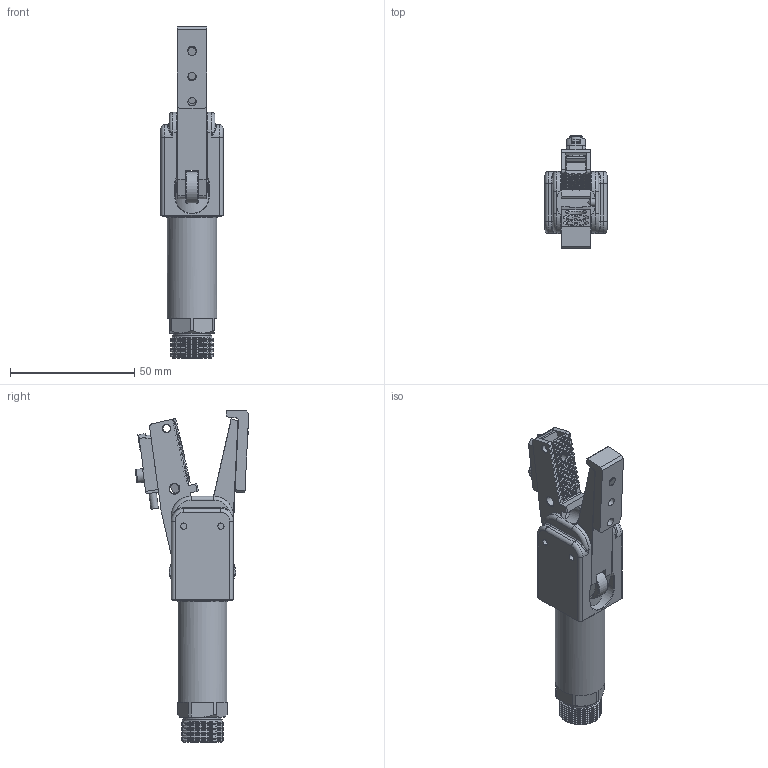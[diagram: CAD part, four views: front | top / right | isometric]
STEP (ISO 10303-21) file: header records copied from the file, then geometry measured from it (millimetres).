
FILE_DESCRIPTION(/* description */ (''),/* implementation_level */ '2;1');
FILE_NAME(/* name */ 'GRT20E-CN.stp',/* time_stamp */ '2023-03-09T11:26:20+08:00',/* author */ (''),/* organization */ (''),/* preprocessor_version */ 'ST-DEVELOPER v16',/* originating_system */ 'SIEMENS PLM Software NX 10.0',/* authorisation */ '');
FILE_SCHEMA (('AUTOMOTIVE_DESIGN { 1 0 10303 214 3 1 1 1 }'));
Length unit declared in the file: millimetre
Products named in the file (1): Admi115498B06jwm
Bounding box: 25 x 45.69 x 133.78 mm (x, y, z)
Volume: 45414 mm3; surface area: 19585.2 mm2
Topology: 2 solids, 8 shells, 1297 faces, 3548 edges, 2316 vertices
Faces by surface type: plane 1013, cylinder 166, cone 79, torus 28, bspline 11
Full cylindrical faces by diameter (mm): 0.5 x1, 1 x1, 2 x1, 2.5 x3, 3 x6, 3.1 x1, 3.3 x2, 3.4 x1, 4 x12, 5.5 x5, 6 x1, 7.53 x3, 8 x2, 8.8 x1, 15 x1, 16 x1, 17 x8, 20 x1
Entity records: 41012 total; most frequent: CARTESIAN_POINT 9065, ORIENTED_EDGE 6754, DIRECTION 6166, EDGE_CURVE 3377, LINE 2716, VECTOR 2716, VERTEX_POINT 2266, AXIS2_PLACEMENT_3D 1725
